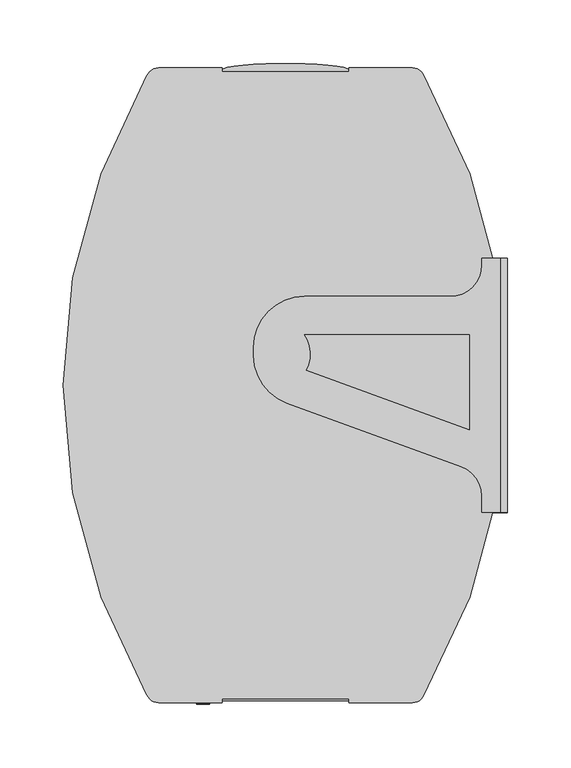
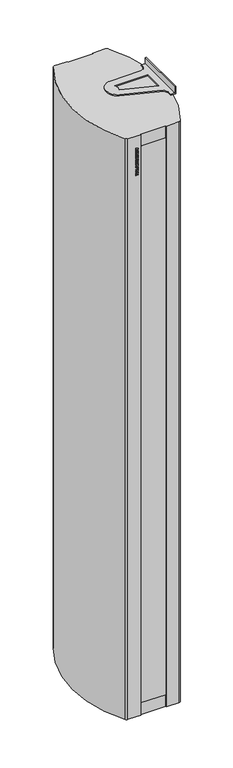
"""IFC4 building model written with IfcOpenShell, lengths in millimetres: proxy geometry, ADSK_Завеса дизайнерская_Электрическая : KVC-S25E24-31."""

from ifc_helpers import new_model, si_unit, point, frame, frame_2d, origin, origin_with_axes, place, context, project, spatial, polyline, circle_curve, ellipse_curve, trimmed, segment, composite_curve, outline, extrude, faceted_brep, source, transform, mapped, element, save
from ifc_brep_helpers import plane_surface, cylinder_surface, revolved_surface, extruded_surface, advanced_brep


def mechanical_equipment_433b3347(model_context):
    return source(origin(), model_context, "Body", "SolidModel", [
        advanced_brep(
        [(155.0, 100.0, -5.0), (170.0, 100.0, -5.0), (170.0, -100.0, -5.0), (155.0, -100.0, -5.0), (155.0, -87.5051885, -5.0), (138.5505036, -64.0128729, -5.0), (1.3191943, -14.0647611, -5.0), (-25.0, 23.5229437, -5.0), (-25.0, 30.0, -5.0), (15.0, 70.0, -5.0), (130.0, 70.0, -5.0), (155.0, 95.0, -5.0), (145.0, -34.8821335, -5.0), (145.0, 40.0, -5.0), (15.0, 40.0, -5.0), (16.5981063, 11.8523338, -5.0), (155.0, 100.0, 0.0), (155.0, 95.0, 0.0), (130.0, 70.0, 0.0), (15.0, 70.0, 0.0), (-25.0, 30.0, 0.0), (-25.0, 23.5229437, 0.0), (1.3191943, -14.0647611, 0.0), (138.5505036, -64.0128729, 0.0), (155.0, -87.5051885, 0.0), (155.0, -100.0, 0.0), (175.0, -100.0, 0.0), (175.0, 100.0, 0.0), (145.0, -34.8821335, 0.0), (16.5981063, 11.8523338, 0.0), (15.0, 40.0, 0.0), (145.0, 40.0, 0.0), (175.0, 100.0, -30.0), (170.0, 100.0, -30.0), (170.0, -100.0, -30.0), (175.0, -100.0, -30.0)],
        [
            (0, 1),
            (1, 2),
            (2, 3),
            (3, 4),
            (4, 5, circle_curve(frame((130.0, -87.5051885, -5.0), z_axis=(0.0, 0.0, 1.0), x_axis=(1.0, 0.0, 0.0)), 25.0)),
            (5, 6),
            (6, 7, circle_curve(frame((15.0, 23.5229437, -5.0), z_axis=(0.0, 0.0, -1.0), x_axis=(1.0, 0.0, 0.0)), 40.0)),
            (7, 8),
            (8, 9, circle_curve(frame((15.0, 30.0, -5.0), z_axis=(0.0, 0.0, -1.0), x_axis=(1.0, 0.0, 0.0)), 40.0)),
            (9, 10),
            (10, 11, circle_curve(frame((130.0, 95.0, -5.0), z_axis=(0.0, 0.0, 1.0), x_axis=(1.0, 0.0, 0.0)), 25.0)),
            (11, 0),
            (12, 13),
            (13, 14),
            (14, 15, circle_curve(frame((-7.1937545, 24.6207318, -5.0), z_axis=(0.0, 0.0, -1.0), x_axis=(1.0, 0.0, 0.0)), 27.0015672)),
            (15, 12),
            (16, 17),
            (17, 18, circle_curve(frame((130.0, 95.0, 0.0), z_axis=(0.0, 0.0, -1.0), x_axis=(1.0, 0.0, 0.0)), 25.0)),
            (18, 19),
            (19, 20, circle_curve(frame((15.0, 30.0, 0.0), z_axis=(0.0, 0.0, 1.0), x_axis=(1.0, 0.0, 0.0)), 40.0)),
            (20, 21),
            (21, 22, circle_curve(frame((15.0, 23.5229437, 0.0), z_axis=(0.0, 0.0, 1.0), x_axis=(1.0, 0.0, 0.0)), 40.0)),
            (22, 23),
            (23, 24, circle_curve(frame((130.0, -87.5051885, 0.0), z_axis=(0.0, 0.0, -1.0), x_axis=(1.0, 0.0, 0.0)), 25.0)),
            (24, 25),
            (25, 26),
            (26, 27),
            (27, 16),
            (28, 29),
            (29, 30, circle_curve(frame((-7.1937545, 24.6207318, 0.0), z_axis=(0.0, 0.0, 1.0), x_axis=(1.0, 0.0, 0.0)), 27.0015672)),
            (30, 31),
            (31, 28),
            (27, 32),
            (32, 33),
            (33, 1),
            (0, 16),
            (7, 21),
            (20, 8),
            (2, 34),
            (34, 35),
            (35, 26),
            (25, 3),
            (35, 32),
            (11, 17),
            (10, 18),
            (9, 19),
            (6, 22),
            (5, 23),
            (4, 24),
            (15, 29),
            (28, 12),
            (14, 30),
            (13, 31),
            (34, 33),
        ],
        [
            plane_surface(frame((-25.0, 100.0, -5.0), z_axis=(0.0, 0.0, -1.0), x_axis=(-1.0, 0.0, 0.0))),
            plane_surface(frame((-25.0, 100.0, 0.0), z_axis=(0.0, 0.0, 1.0), x_axis=(1.0, 0.0, 0.0))),
            plane_surface(frame((175.0, 100.0, -5.0), z_axis=(0.0, 1.0, 0.0), x_axis=(0.0, 0.0, 1.0))),
            plane_surface(frame((-25.0, 30.0, -5.0), z_axis=(-1.0, 0.0, 0.0), x_axis=(0.0, 0.0, 1.0))),
            plane_surface(frame((155.0, -100.0, -5.0), z_axis=(0.0, -1.0, 0.0), x_axis=(0.0, 0.0, 1.0))),
            plane_surface(frame((175.0, -100.0, -5.0), z_axis=(1.0, 0.0, 0.0), x_axis=(0.0, 0.0, 1.0))),
            plane_surface(frame((155.0, 100.0, -5.0), z_axis=(-1.0, 0.0, 0.0), x_axis=(0.0, 0.0, 1.0))),
            revolved_surface(polyline([(155.0, 95.0, 0.0), (155.0, 95.0, -5.0)]), (130.0, 95.0, 0.0), (0.0, 0.0, 1.0)),
            plane_surface(frame((130.0, 70.0, -5.0), z_axis=(0.0, 1.0, 0.0), x_axis=(0.0, 0.0, 1.0))),
            cylinder_surface(frame((15.0, 30.0, 0.0), z_axis=(0.0, 0.0, -1.0), x_axis=(1.0, 0.0, 0.0)), 40.0),
            cylinder_surface(frame((15.0, 23.5229437, 0.0), z_axis=(0.0, 0.0, -1.0), x_axis=(1.0, 0.0, 0.0)), 40.0),
            plane_surface(frame((1.3191943, -14.0647611, -5.0), z_axis=(-0.34202014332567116, -0.9396926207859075, 0.0), x_axis=(0.0, 0.0, 1.0))),
            revolved_surface(polyline([(155.0, -87.5051885, 0.0), (155.0, -87.5051885, -5.0)]), (130.0, -87.5051885, 0.0), (0.0, 0.0, 1.0)),
            plane_surface(frame((155.0, -87.5051885, -5.0), z_axis=(-1.0, 0.0, 0.0), x_axis=(0.0, 0.0, 1.0))),
            plane_surface(frame((145.0, -34.8821335, -5.0), z_axis=(0.34202014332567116, 0.9396926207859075, 0.0), x_axis=(0.0, 0.0, 1.0))),
            cylinder_surface(frame((-7.1937545, 24.6207318, 0.0), z_axis=(0.0, 0.0, -1.0), x_axis=(1.0, 0.0, 0.0)), 27.0015672),
            plane_surface(frame((15.0, 40.0, -5.0), z_axis=(0.0, -1.0, 0.0), x_axis=(0.0, 0.0, 1.0))),
            plane_surface(frame((145.0, 40.0, -5.0), z_axis=(-1.0, 0.0, 0.0), x_axis=(0.0, 0.0, 1.0))),
            plane_surface(frame((170.0, 126.8049179, -30.0), z_axis=(0.0, 0.0, -1.0), x_axis=(0.0, -1.0, 0.0))),
            plane_surface(frame((170.0, 100.0, -30.0), z_axis=(-1.0, 0.0, 0.0), x_axis=(0.0, 0.0, 1.0))),
        ],
        [
            (0, [[1, 2, 3, 4, 5, 6, 7, 8, 9, 10, 11, 12], [13, 14, 15, 16]]),
            (1, [[17, 18, 19, 20, 21, 22, 23, 24, 25, 26, 27, 28], [29, 30, 31, 32]]),
            (2, [[-28, 33, 34, 35, -1, 36]]),
            (3, [[37, -21, 38, -8]]),
            (4, [[-3, 39, 40, 41, -26, 42]]),
            (5, [[43, -33, -27, -41]]),
            (6, [[44, -17, -36, -12]]),
            (7, [[45, -18, -44, -11]]),
            (8, [[46, -19, -45, -10]]),
            (9, [[-38, -20, -46, -9]]),
            (10, [[47, -22, -37, -7]]),
            (11, [[48, -23, -47, -6]]),
            (12, [[49, -24, -48, -5]]),
            (13, [[-42, -25, -49, -4]]),
            (14, [[50, -29, 51, -16]]),
            (15, [[52, -30, -50, -15]]),
            (16, [[53, -31, -52, -14]]),
            (17, [[-51, -32, -53, -13]]),
            (18, [[-34, -43, -40, 54]]),
            (19, [[-39, -2, -35, -54]]),
        ],
    ),
        advanced_brep(
        [(155.0, 100.0, 2419.0), (155.0, 95.0, 2419.0), (130.0, 70.0, 2419.0), (15.0, 70.0, 2419.0), (-25.0, 30.0, 2419.0), (-25.0, 23.5229437, 2419.0), (1.3191943, -14.0647611, 2419.0), (138.5505036, -64.0128729, 2419.0), (155.0, -87.5051885, 2419.0), (155.0, -100.0, 2419.0), (170.0, -100.0, 2419.0), (170.0, 100.0, 2419.0), (145.0, -34.8821335, 2419.0), (16.5981063, 11.8523338, 2419.0), (15.0, 40.0, 2419.0), (145.0, 40.0, 2419.0), (155.0, 100.0, 2414.0), (175.0, 100.0, 2414.0), (175.0, -100.0, 2414.0), (155.0, -100.0, 2414.0), (155.0, -87.5051885, 2414.0), (138.5505036, -64.0128729, 2414.0), (1.3191943, -14.0647611, 2414.0), (-25.0, 23.5229437, 2414.0), (-25.0, 30.0, 2414.0), (15.0, 70.0, 2414.0), (130.0, 70.0, 2414.0), (155.0, 95.0, 2414.0), (145.0, -34.8821335, 2414.0), (145.0, 40.0, 2414.0), (15.0, 40.0, 2414.0), (16.5981063, 11.8523338, 2414.0), (170.0, 100.0, 2444.0), (175.0, 100.0, 2444.0), (175.0, -100.0, 2444.0), (170.0, -100.0, 2444.0)],
        [
            (0, 1),
            (1, 2, circle_curve(frame((130.0, 95.0, 2419.0), z_axis=(0.0, 0.0, -1.0), x_axis=(1.0, 0.0, 0.0)), 25.0)),
            (2, 3),
            (3, 4, circle_curve(frame((15.0, 30.0, 2419.0), z_axis=(0.0, 0.0, 1.0), x_axis=(1.0, 0.0, 0.0)), 40.0)),
            (4, 5),
            (5, 6, circle_curve(frame((15.0, 23.5229437, 2419.0), z_axis=(0.0, 0.0, 1.0), x_axis=(1.0, 0.0, 0.0)), 40.0)),
            (6, 7),
            (7, 8, circle_curve(frame((130.0, -87.5051885, 2419.0), z_axis=(0.0, 0.0, -1.0), x_axis=(1.0, 0.0, 0.0)), 25.0)),
            (8, 9),
            (9, 10),
            (10, 11),
            (11, 0),
            (12, 13),
            (13, 14, circle_curve(frame((-7.1937545, 24.6207318, 2419.0), z_axis=(0.0, 0.0, 1.0), x_axis=(1.0, 0.0, 0.0)), 27.0015672)),
            (14, 15),
            (15, 12),
            (16, 17),
            (17, 18),
            (18, 19),
            (19, 20),
            (20, 21, circle_curve(frame((130.0, -87.5051885, 2414.0), z_axis=(0.0, 0.0, 1.0), x_axis=(1.0, 0.0, 0.0)), 25.0)),
            (21, 22),
            (22, 23, circle_curve(frame((15.0, 23.5229437, 2414.0), z_axis=(0.0, 0.0, -1.0), x_axis=(1.0, 0.0, 0.0)), 40.0)),
            (23, 24),
            (24, 25, circle_curve(frame((15.0, 30.0, 2414.0), z_axis=(0.0, 0.0, -1.0), x_axis=(1.0, 0.0, 0.0)), 40.0)),
            (25, 26),
            (26, 27, circle_curve(frame((130.0, 95.0, 2414.0), z_axis=(0.0, 0.0, 1.0), x_axis=(1.0, 0.0, 0.0)), 25.0)),
            (27, 16),
            (28, 29),
            (29, 30),
            (30, 31, circle_curve(frame((-7.1937545, 24.6207318, 2414.0), z_axis=(0.0, 0.0, -1.0), x_axis=(1.0, 0.0, 0.0)), 27.0015672)),
            (31, 28),
            (16, 0),
            (11, 32),
            (32, 33),
            (33, 17),
            (4, 24),
            (23, 5),
            (9, 19),
            (18, 34),
            (34, 35),
            (35, 10),
            (33, 34),
            (27, 1),
            (26, 2),
            (25, 3),
            (22, 6),
            (21, 7),
            (20, 8),
            (12, 28),
            (31, 13),
            (30, 14),
            (29, 15),
            (32, 35),
        ],
        [
            plane_surface(frame((-25.0, 100.0, 2419.0), z_axis=(0.0, 0.0, 1.0), x_axis=(-1.0, 0.0, 0.0))),
            plane_surface(frame((-25.0, 100.0, 2414.0), z_axis=(0.0, 0.0, -1.0), x_axis=(1.0, 0.0, 0.0))),
            plane_surface(frame((175.0, 100.0, 2419.0), z_axis=(0.0, 1.0, 0.0), x_axis=(0.0, 0.0, -1.0))),
            plane_surface(frame((-25.0, 30.0, 2419.0), z_axis=(-1.0, 0.0, 0.0), x_axis=(0.0, 0.0, -1.0))),
            plane_surface(frame((155.0, -100.0, 2419.0), z_axis=(0.0, -1.0, 0.0), x_axis=(0.0, 0.0, -1.0))),
            plane_surface(frame((175.0, -100.0, 2419.0), z_axis=(1.0, 0.0, 0.0), x_axis=(0.0, 0.0, -1.0))),
            plane_surface(frame((155.0, 100.0, 2419.0), z_axis=(-1.0, 0.0, 0.0), x_axis=(0.0, 0.0, -1.0))),
            revolved_surface(polyline([(155.0, 95.0, 2414.0), (155.0, 95.0, 2419.0)]), (130.0, 95.0, 2414.0), (0.0, 0.0, -1.0)),
            plane_surface(frame((130.0, 70.0, 2419.0), z_axis=(0.0, 1.0, 0.0), x_axis=(0.0, 0.0, -1.0))),
            cylinder_surface(frame((15.0, 30.0, 2414.0), z_axis=(0.0, 0.0, 1.0), x_axis=(1.0, 0.0, 0.0)), 40.0),
            cylinder_surface(frame((15.0, 23.5229437, 2414.0), z_axis=(0.0, 0.0, 1.0), x_axis=(1.0, 0.0, 0.0)), 40.0),
            plane_surface(frame((1.3191943, -14.0647611, 2419.0), z_axis=(-0.3420201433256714, -0.9396926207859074, 0.0), x_axis=(0.0, 0.0, -1.0))),
            revolved_surface(polyline([(155.0, -87.5051885, 2414.0), (155.0, -87.5051885, 2419.0)]), (130.0, -87.5051885, 2414.0), (0.0, 0.0, -1.0)),
            plane_surface(frame((155.0, -87.5051885, 2419.0), z_axis=(-1.0, 0.0, 0.0), x_axis=(0.0, 0.0, -1.0))),
            plane_surface(frame((145.0, -34.8821335, 2419.0), z_axis=(0.3420201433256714, 0.9396926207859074, 0.0), x_axis=(0.0, 0.0, -1.0))),
            cylinder_surface(frame((-7.1937545, 24.6207318, 2414.0), z_axis=(0.0, 0.0, 1.0), x_axis=(1.0, 0.0, 0.0)), 27.0015672),
            plane_surface(frame((15.0, 40.0, 2419.0), z_axis=(0.0, -1.0, 0.0), x_axis=(0.0, 0.0, -1.0))),
            plane_surface(frame((145.0, 40.0, 2419.0), z_axis=(-1.0, 0.0, 0.0), x_axis=(0.0, 0.0, -1.0))),
            plane_surface(frame((170.0, 126.8049179, 2444.0), z_axis=(0.0, 0.0, 1.0), x_axis=(0.0, -1.0, 0.0))),
            plane_surface(frame((170.0, 100.0, 2444.0), z_axis=(-1.0, 0.0, 0.0), x_axis=(0.0, 0.0, -1.0))),
        ],
        [
            (0, [[1, 2, 3, 4, 5, 6, 7, 8, 9, 10, 11, 12], [13, 14, 15, 16]]),
            (1, [[17, 18, 19, 20, 21, 22, 23, 24, 25, 26, 27, 28], [29, 30, 31, 32]]),
            (2, [[33, -12, 34, 35, 36, -17]]),
            (3, [[-5, 37, -24, 38]]),
            (4, [[39, -19, 40, 41, 42, -10]]),
            (5, [[-40, -18, -36, 43]]),
            (6, [[-1, -33, -28, 44]]),
            (7, [[-2, -44, -27, 45]]),
            (8, [[-3, -45, -26, 46]]),
            (9, [[-4, -46, -25, -37]]),
            (10, [[-6, -38, -23, 47]]),
            (11, [[-7, -47, -22, 48]]),
            (12, [[-8, -48, -21, 49]]),
            (13, [[-9, -49, -20, -39]]),
            (14, [[-13, 50, -32, 51]]),
            (15, [[-14, -51, -31, 52]]),
            (16, [[-15, -52, -30, 53]]),
            (17, [[-16, -53, -29, -50]]),
            (18, [[54, -41, -43, -35]]),
            (19, [[-54, -34, -11, -42]]),
        ],
    ),
        extrude(outline(polyline([(2250.0784314, -70.0), (2250.0784314, -60.0), (2253.2156863, -60.0), (2253.2156863, -61.7647059), (2254.9865196, -63.7745098), (2256.8186275, -60.0), (2260.6666667, -60.0), (2257.192402, -66.2775735), (2260.4705882, -70.0), (2256.1997549, -70.0), (2253.2156863, -66.2224265), (2253.2156863, -70.0), (2250.0784314, -70.0)])), frame((0.0, -251.0, 0.0), z_axis=(0.0, 1.0, 0.0), x_axis=(0.0, 0.0, 1.0)), (0.0, 0.0, 1.0), 1.0),
        extrude(outline(polyline([(2267.6642157, -61.5686275), (2268.1176471, -60.0), (2271.4509804, -60.0), (2268.0778186, -70.0), (2264.0398284, -70.0), (2260.6666667, -60.0), (2264.0, -60.0), (2264.4319853, -61.5686275), (2267.6642157, -61.5686275)]), holes=[polyline([(2267.0698529, -63.9215686), (2265.0814951, -63.9215686), (2266.0588235, -67.4540441), (2267.0698529, -63.9215686)])]), frame((0.0, -251.0, 0.0), z_axis=(0.0, 1.0, 0.0), x_axis=(0.0, 0.0, 1.0)), (0.0, 0.0, 1.0), 1.0),
        extrude(outline(polyline([(2272.4313725, -70.0), (2272.4313725, -60.0), (2280.2745098, -60.0), (2280.2745098, -62.3529412), (2275.5686275, -62.3529412), (2275.5686275, -70.0), (2272.4313725, -70.0)])), frame((0.0, -251.0, 0.0), z_axis=(0.0, 1.0, 0.0), x_axis=(0.0, 0.0, 1.0)), (0.0, 0.0, 1.0), 1.0),
        extrude(outline(polyline([(2287.6642157, -61.5686275), (2288.1176471, -60.0), (2291.4509804, -60.0), (2288.0778186, -70.0), (2284.0398284, -70.0), (2280.6666667, -60.0), (2284.0, -60.0), (2284.4319853, -61.5686275), (2287.6642157, -61.5686275)]), holes=[polyline([(2287.0698529, -63.9215686), (2285.0814951, -63.9215686), (2286.0588235, -67.4540441), (2287.0698529, -63.9215686)])]), frame((0.0, -251.0, 0.0), z_axis=(0.0, 1.0, 0.0), x_axis=(0.0, 0.0, 1.0)), (0.0, 0.0, 1.0), 1.0),
        extrude(outline(polyline([(2291.8431373, -63.3394608), (2292.9491422, -60.8026961), (2296.4601716, -59.8039216), (2298.8560049, -60.2297794), (2300.3342525, -61.4813113), (2300.8627451, -63.28125), (2300.4675245, -64.7870711), (2299.2022059, -65.9129902), (2296.3223039, -66.8106618), (2296.1905637, -68.4313725), (2296.9641544, -68.1050858), (2297.3333333, -67.0588235), (2300.4705882, -67.2395833), (2299.2925858, -69.4883578), (2296.4172794, -70.1960784), (2293.9969363, -69.8039216), (2292.6749387, -68.7285539), (2292.2352941, -67.276348), (2293.1023284, -65.3492647), (2295.9761029, -64.1237745), (2297.7254902, -62.8186275), (2297.4114583, -62.0818015), (2296.5183824, -61.7647059), (2295.3204657, -62.3958333), (2294.9803922, -63.5294118), (2291.8431373, -63.3394608)])), frame((0.0, -251.0, 0.0), z_axis=(0.0, 1.0, 0.0), x_axis=(0.0, 0.0, 1.0)), (0.0, 0.0, 1.0), 1.0),
        extrude(outline(polyline([(2302.4313725, -70.0), (2302.4313725, -60.0), (2305.5686275, -60.0), (2305.5686275, -64.1176471), (2308.9019608, -64.1176471), (2308.9019608, -60.0), (2312.0392157, -60.0), (2312.0392157, -70.0), (2308.9019608, -70.0), (2308.9019608, -66.4705882), (2305.5686275, -66.4705882), (2305.5686275, -70.0), (2302.4313725, -70.0)])), frame((0.0, -251.0, 0.0), z_axis=(0.0, 1.0, 0.0), x_axis=(0.0, 0.0, 1.0)), (0.0, 0.0, 1.0), 1.0),
        extrude(outline(polyline([(2314.0, -70.0), (2314.0, -60.0), (2316.9411765, -60.0), (2316.9411765, -65.4901961), (2320.6666667, -60.0), (2323.6078431, -60.0), (2323.6078431, -70.0), (2320.6666667, -70.0), (2320.6666667, -64.4730392), (2316.9197304, -70.0), (2314.0, -70.0)])), frame((0.0, -251.0, 0.0), z_axis=(0.0, 1.0, 0.0), x_axis=(0.0, 0.0, 1.0)), (0.0, 0.0, 1.0), 1.0),
        extrude(outline(polyline([(-60.0, -251.0), (-70.0, -251.0), (-70.0, -250.0), (-60.0, -250.0), (-60.0, -251.0)])), frame((0.0, 0.0, 2325.7647059), z_axis=(0.0, 0.0, 1.0), x_axis=(1.0, 0.0, 0.0)), (0.0, 0.0, 1.0), 3.1372549),
        extrude(outline(polyline([(2331.0588235, -70.0), (2331.0588235, -60.0), (2334.1960784, -60.0), (2334.1960784, -61.7647059), (2335.9669118, -63.7745098), (2337.7990196, -60.0), (2341.6470588, -60.0), (2338.1727941, -66.2775735), (2341.4509804, -70.0), (2337.1801471, -70.0), (2334.1960784, -66.2224265), (2334.1960784, -70.0), (2331.0588235, -70.0)])), frame((0.0, -251.0, 0.0), z_axis=(0.0, 1.0, 0.0), x_axis=(0.0, 0.0, 1.0)), (0.0, 0.0, 1.0), 1.0),
        extrude(outline(polyline([(2342.2352941, -64.9938725), (2342.9261642, -62.0603554), (2344.7291667, -60.346201), (2347.5386029, -59.8039216), (2350.3250613, -60.4304534), (2352.036152, -62.1859681), (2352.627451, -65.0765931), (2351.2732843, -68.8495711), (2347.4129902, -70.1960784), (2343.6032475, -68.8250613), (2342.2352941, -64.9938725)]), holes=[polyline([(2345.372549, -64.9938725), (2345.9301471, -67.1813725), (2347.4068627, -67.8431373), (2348.9295343, -67.1920956), (2349.4901961, -65.1286765), (2348.9525123, -62.8048407), (2347.4344363, -62.1568627), (2345.9270833, -62.8186275), (2345.372549, -64.9938725)])]), frame((0.0, -251.0, 0.0), z_axis=(0.0, 1.0, 0.0), x_axis=(0.0, 0.0, 1.0)), (0.0, 0.0, 1.0), 1.0),
        extrude(outline(polyline([(2353.4117647, -70.0), (2357.1280637, -60.0), (2360.4583333, -60.0), (2364.1960784, -70.0), (2360.8627451, -70.0), (2358.8039216, -62.8033088), (2356.7420343, -70.0), (2353.4117647, -70.0)])), frame((0.0, -251.0, 0.0), z_axis=(0.0, 1.0, 0.0), x_axis=(0.0, 0.0, 1.0)), (0.0, 0.0, 1.0), 1.0),
        faceted_brep([(50.0, -247.0, 2364.0), (-50.0, -247.0, 2364.0), (-50.0, -248.5, 2364.0), (50.0, -248.5, 2364.0), (50.0, -247.0, 50.0), (50.0, -248.5, 50.0), (-50.0, -248.5, 50.0), (-50.0, -247.0, 50.0)], [[[0, 1, 2, 3]], [[4, 5, 6, 7]], [[1, 0, 4, 7]], [[2, 1, 7, 6]], [[3, 2, 6, 5]], [[0, 3, 5, 4]]]),
        advanced_brep(
        [(-50.0, 248.5, 2364.0), (-50.0, 247.0, 2364.0), (50.0, 247.0, 2364.0), (50.0, 248.5, 2364.0), (-50.0, 248.5, 50.0), (50.0, 248.5, 50.0), (50.0, 247.0, 50.0), (-50.0, 247.0, 50.0)],
        [
            (0, 1),
            (1, 2),
            (2, 3),
            (3, 0, ellipse_curve(frame((0.0, 248.5, 2364.0), z_axis=(0.0, 0.0, 1.0), x_axis=(-1.0, 0.0, 0.0)), 50.0, 5.0)),
            (4, 5, ellipse_curve(frame((0.0, 248.5, 50.0), z_axis=(0.0, 0.0, -1.0), x_axis=(-1.0, 0.0, 0.0)), 50.0, 5.0)),
            (5, 6),
            (6, 7),
            (7, 4),
            (0, 4),
            (7, 1),
            (6, 2),
            (5, 3),
        ],
        [
            plane_surface(frame((-50.0, -247.0, 2364.0), z_axis=(0.0, 0.0, 1.0), x_axis=(-1.0, 0.0, 0.0))),
            plane_surface(frame((-50.0, -247.0, 50.0), z_axis=(0.0, 0.0, -1.0), x_axis=(1.0, 0.0, 0.0))),
            plane_surface(frame((-50.0, 248.5, 2364.0), z_axis=(-1.0, 0.0, 0.0), x_axis=(0.0, 0.0, -1.0))),
            plane_surface(frame((-50.0, 247.0, 2364.0), z_axis=(0.0, -1.0, 0.0), x_axis=(0.0, 0.0, -1.0))),
            plane_surface(frame((50.0, 247.0, 2364.0), z_axis=(1.0, 0.0, 0.0), x_axis=(0.0, 0.0, -1.0))),
            extruded_surface(trimmed(ellipse_curve(frame((0.0, 248.5, -2314.0), z_axis=(0.0, 0.0, 1.0), x_axis=(-1.0, 0.0, 0.0)), 50.0, 5.0), [point((50.0, 248.5, -2314.0))], [point((-50.0, 248.5, -2314.0))], True, "CARTESIAN"), (0.0, 0.0, 2314.0), 2314.0),
        ],
        [
            (0, [[1, 2, 3, 4]]),
            (1, [[5, 6, 7, 8]]),
            (2, [[-1, 9, -8, 10]]),
            (3, [[-2, -10, -7, 11]]),
            (4, [[-3, -11, -6, 12]]),
            (5, [[-4, -12, -5, -9]]),
        ],
    ),
        extrude(outline(composite_curve([segment(polyline([(-50.0, 250.0), (-50.0, 247.0), (50.0, 247.0), (50.0, 250.0), (100.0, 250.0)]), True, "CONTINUOUS"), segment(trimmed(circle_curve(frame_2d((100.0, 240.0)), 10.0), [point((100.0, 250.0))], [point((109.287324, 243.7075077))], False, "CARTESIAN"), True, "CONTINUOUS"), segment(trimmed(circle_curve(frame_2d((-309.7733265, 0.0)), 484.7733265), [point((109.287324, 243.7075077))], [point((109.287324, -243.7075077))], False, "CARTESIAN"), True, "CONTINUOUS"), segment(trimmed(circle_curve(frame_2d((100.0, -240.0)), 10.0), [point((109.287324, -243.7075077))], [point((100.0, -250.0))], False, "CARTESIAN"), True, "CONTINUOUS"), segment(polyline([(100.0, -250.0), (50.0, -250.0), (50.0, -247.0), (-50.0, -247.0), (-50.0, -250.0), (-100.0, -250.0)]), True, "CONTINUOUS"), segment(trimmed(circle_curve(frame_2d((-100.0, -240.0)), 10.0), [point((-100.0, -250.0))], [point((-109.287324, -243.7075077))], False, "CARTESIAN"), True, "CONTINUOUS"), segment(trimmed(circle_curve(frame_2d((309.7733265, 0.0)), 484.7733265), [point((-109.287324, -243.7075077))], [point((-109.287324, 243.7075077))], False, "CARTESIAN"), True, "CONTINUOUS"), segment(trimmed(circle_curve(frame_2d((-100.0, 240.0)), 10.0), [point((-109.287324, 243.7075077))], [point((-100.0, 250.0))], False, "CARTESIAN"), True, "CONTINUOUS"), segment(polyline([(-100.0, 250.0), (-50.0, 250.0)]), True, "CONTINUOUS")], self_intersect=False)), origin_with_axes(), (0.0, 0.0, 1.0), 2414.0),
    ])


if __name__ == "__main__":
    model = new_model("IFC4")
    model_context = context("Model", 3, world=origin())
    ifc_project = project(units=[si_unit("LENGTHUNIT", "METRE", prefix="MILLI")], contexts=[model_context])
    site = spatial("IfcSite", under=ifc_project)
    building = spatial("IfcBuilding", under=site)
    placement = place(None, origin())
    mechanical_equipment_shape = mechanical_equipment_433b3347(model_context)
    element("IfcBuildingElementProxy", 1, Name="ADSK_Завеса дизайнерская_Электрическая : KVC-S25E24-31", ObjectType="ADSK_Завеса дизайнерская_Электрическая : KVC-S25E24-31", at=placement, inside=building, context=model_context, shape_type="MappedRepresentation", body=[
        mapped(mechanical_equipment_shape, transform((0.0, 0.0, 0.0), x_axis=(1.0, 0.0, 0.0), y_axis=(0.0, 1.0, 0.0), z_axis=(0.0, 0.0, 1.0))),
    ])
    save(model, "model.ifc")
